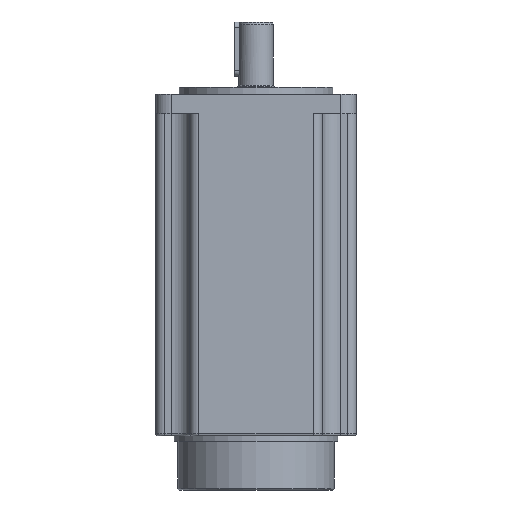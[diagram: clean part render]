
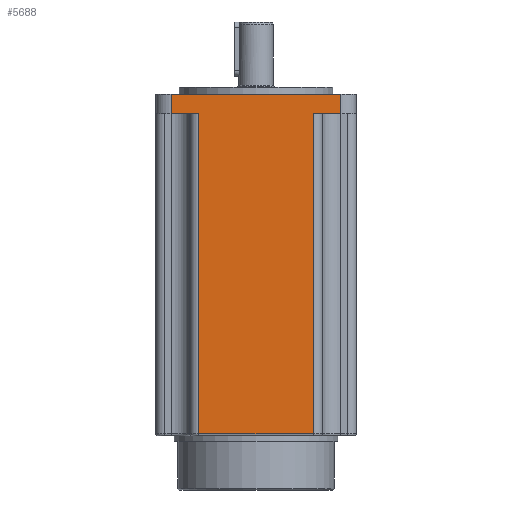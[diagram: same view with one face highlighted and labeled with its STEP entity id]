
A CAD part, front view. The second image highlights one B-rep face of the part: STEP entity #5688.
In plain terms, the highlighted planar face has unit normal (0, -1, 0).
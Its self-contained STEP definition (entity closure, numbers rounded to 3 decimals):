
#5 = VECTOR ( 'NONE', #7274, 1000. ) ;
#127 = VERTEX_POINT ( 'NONE', #8133 ) ;
#419 = CARTESIAN_POINT ( 'NONE',  ( -46.9, -55.5, 0. ) ) ;
#586 = CARTESIAN_POINT ( 'NONE',  ( -46.9, -55.5, 10.7 ) ) ;
#823 = CARTESIAN_POINT ( 'NONE',  ( -46.9, -55.5, 10.7 ) ) ;
#960 = EDGE_CURVE ( 'NONE', #1463, #8012, #4423, .T. ) ;
#1119 = LINE ( 'NONE', #7790, #7923 ) ;
#1257 = DIRECTION ( 'NONE',  ( 0., 0., 1. ) ) ;
#1442 = LINE ( 'NONE', #5949, #8032 ) ;
#1463 = VERTEX_POINT ( 'NONE', #2385 ) ;
#1711 = ORIENTED_EDGE ( 'NONE', *, *, #6240, .F. ) ;
#1764 = VECTOR ( 'NONE', #5508, 1000. ) ;
#1934 = AXIS2_PLACEMENT_3D ( 'NONE', #586, #5221, #1257 ) ;
#2254 = CARTESIAN_POINT ( 'NONE',  ( 31.65, -55.5, 0. ) ) ;
#2370 = EDGE_CURVE ( 'NONE', #1463, #5983, #6802, .T. ) ;
#2385 = CARTESIAN_POINT ( 'NONE',  ( -46.9, -55.5, 10.7 ) ) ;
#2457 = VECTOR ( 'NONE', #5055, 1000. ) ;
#2501 = ORIENTED_EDGE ( 'NONE', *, *, #4715, .T. ) ;
#2547 = CARTESIAN_POINT ( 'NONE',  ( -31.65, -55.5, 0. ) ) ;
#2759 = VERTEX_POINT ( 'NONE', #2547 ) ;
#2969 = EDGE_CURVE ( 'NONE', #6359, #2759, #5489, .T. ) ;
#3177 = ORIENTED_EDGE ( 'NONE', *, *, #6131, .T. ) ;
#3279 = CARTESIAN_POINT ( 'NONE',  ( -46.9, -55.5, 10.7 ) ) ;
#3351 = ORIENTED_EDGE ( 'NONE', *, *, #3974, .T. ) ;
#3669 = VERTEX_POINT ( 'NONE', #3819 ) ;
#3767 = VECTOR ( 'NONE', #8105, 1000. ) ;
#3819 = CARTESIAN_POINT ( 'NONE',  ( 46.9, -55.5, 0. ) ) ;
#3974 = EDGE_CURVE ( 'NONE', #6359, #127, #6785, .T. ) ;
#3987 = VERTEX_POINT ( 'NONE', #2254 ) ;
#4108 = ORIENTED_EDGE ( 'NONE', *, *, #2370, .F. ) ;
#4423 = LINE ( 'NONE', #823, #7464 ) ;
#4715 = EDGE_CURVE ( 'NONE', #3987, #3669, #1442, .T. ) ;
#4775 = DIRECTION ( 'NONE',  ( 0., 0., -1. ) ) ;
#5049 = LINE ( 'NONE', #5067, #8524 ) ;
#5055 = DIRECTION ( 'NONE',  ( 1., 0., 0. ) ) ;
#5067 = CARTESIAN_POINT ( 'NONE',  ( 31.65, -55.5, -178.3 ) ) ;
#5138 = ORIENTED_EDGE ( 'NONE', *, *, #960, .T. ) ;
#5221 = DIRECTION ( 'NONE',  ( 0., 1., 0. ) ) ;
#5276 = ORIENTED_EDGE ( 'NONE', *, *, #6668, .T. ) ;
#5298 = DIRECTION ( 'NONE',  ( 1., 0., 0. ) ) ;
#5489 = LINE ( 'NONE', #6125, #3767 ) ;
#5508 = DIRECTION ( 'NONE',  ( 1., 0., 0. ) ) ;
#5688 = ADVANCED_FACE ( 'NONE', ( #6464 ), #7827, .F. ) ;
#5949 = CARTESIAN_POINT ( 'NONE',  ( -46.9, -55.5, 0. ) ) ;
#5953 = LINE ( 'NONE', #419, #2457 ) ;
#5983 = VERTEX_POINT ( 'NONE', #8247 ) ;
#6125 = CARTESIAN_POINT ( 'NONE',  ( -31.65, -55.5, -178.3 ) ) ;
#6131 = EDGE_CURVE ( 'NONE', #127, #3987, #5049, .T. ) ;
#6240 = EDGE_CURVE ( 'NONE', #5983, #3669, #1119, .T. ) ;
#6359 = VERTEX_POINT ( 'NONE', #7279 ) ;
#6464 = FACE_OUTER_BOUND ( 'NONE', #7605, .T. ) ;
#6570 = ORIENTED_EDGE ( 'NONE', *, *, #2969, .F. ) ;
#6668 = EDGE_CURVE ( 'NONE', #8012, #2759, #5953, .T. ) ;
#6785 = LINE ( 'NONE', #7481, #1764 ) ;
#6802 = LINE ( 'NONE', #3279, #5 ) ;
#7014 = DIRECTION ( 'NONE',  ( 0., 0., 1. ) ) ;
#7274 = DIRECTION ( 'NONE',  ( 1., 0., 0. ) ) ;
#7279 = CARTESIAN_POINT ( 'NONE',  ( -31.65, -55.5, -177.3 ) ) ;
#7464 = VECTOR ( 'NONE', #4775, 1000. ) ;
#7481 = CARTESIAN_POINT ( 'NONE',  ( -46.9, -55.5, -177.3 ) ) ;
#7605 = EDGE_LOOP ( 'NONE', ( #6570, #3351, #3177, #2501, #1711, #4108, #5138, #5276 ) ) ;
#7790 = CARTESIAN_POINT ( 'NONE',  ( 46.9, -55.5, 10.7 ) ) ;
#7827 = PLANE ( 'NONE',  #1934 ) ;
#7923 = VECTOR ( 'NONE', #8436, 1000. ) ;
#8012 = VERTEX_POINT ( 'NONE', #8203 ) ;
#8032 = VECTOR ( 'NONE', #5298, 1000. ) ;
#8105 = DIRECTION ( 'NONE',  ( 0., 0., 1. ) ) ;
#8133 = CARTESIAN_POINT ( 'NONE',  ( 31.65, -55.5, -177.3 ) ) ;
#8203 = CARTESIAN_POINT ( 'NONE',  ( -46.9, -55.5, 0. ) ) ;
#8247 = CARTESIAN_POINT ( 'NONE',  ( 46.9, -55.5, 10.7 ) ) ;
#8436 = DIRECTION ( 'NONE',  ( 0., 0., -1. ) ) ;
#8524 = VECTOR ( 'NONE', #7014, 1000. ) ;
